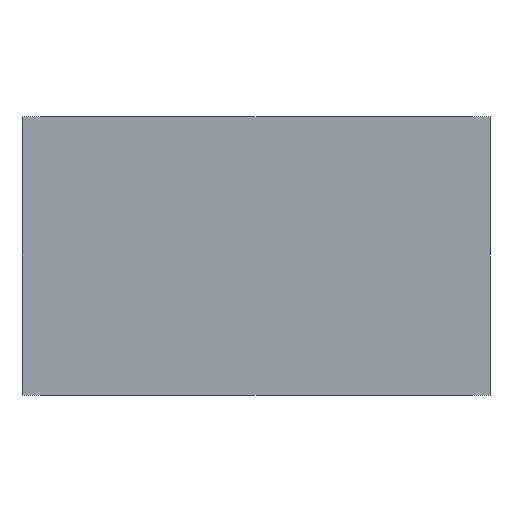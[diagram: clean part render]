
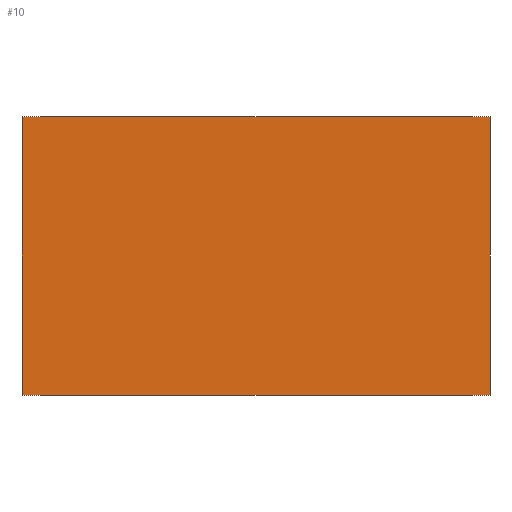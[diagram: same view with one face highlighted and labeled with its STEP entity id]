
A CAD part, front view. The second image highlights one B-rep face of the part: STEP entity #10.
In plain terms, the highlighted planar face has unit normal (0, -1, 0).
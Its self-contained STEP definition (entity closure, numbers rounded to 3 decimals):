
#10 = ADVANCED_FACE ( 'NONE', ( #495 ), #131, .F. ) ;
#30 = VERTEX_POINT ( 'NONE', #164 ) ;
#31 = VERTEX_POINT ( 'NONE', #165 ) ;
#32 = VERTEX_POINT ( 'NONE', #166 ) ;
#47 = CARTESIAN_POINT ( 'NONE',  ( -101., 0., 120. ) ) ;
#82 = VERTEX_POINT ( 'NONE', #223 ) ;
#100 = DIRECTION ( 'NONE',  ( 0., 1., 0. ) ) ;
#122 = DIRECTION ( 'NONE',  ( -1., 0., 0. ) ) ;
#131 = PLANE ( 'NONE',  #409 ) ;
#164 = CARTESIAN_POINT ( 'NONE',  ( -101., 0., 0. ) ) ;
#165 = CARTESIAN_POINT ( 'NONE',  ( 101., 0., 120. ) ) ;
#166 = CARTESIAN_POINT ( 'NONE',  ( -101., 0., 120. ) ) ;
#181 = DIRECTION ( 'NONE',  ( 0., 0., -1. ) ) ;
#182 = CARTESIAN_POINT ( 'NONE',  ( 101., 0., 120. ) ) ;
#223 = CARTESIAN_POINT ( 'NONE',  ( 101., 0., 0. ) ) ;
#233 = DIRECTION ( 'NONE',  ( 1., 0., 0. ) ) ;
#234 = CARTESIAN_POINT ( 'NONE',  ( -101., 0., 0. ) ) ;
#256 = DIRECTION ( 'NONE',  ( 0., 0., -1. ) ) ;
#258 = CARTESIAN_POINT ( 'NONE',  ( -101., 0., 120. ) ) ;
#269 = DIRECTION ( 'NONE',  ( 1., 0., 0. ) ) ;
#270 = CARTESIAN_POINT ( 'NONE',  ( -101., 0., 120. ) ) ;
#363 = EDGE_CURVE ( 'NONE', #31, #82, #502, .T. ) ;
#401 = EDGE_CURVE ( 'NONE', #32, #31, #727, .T. ) ;
#409 = AXIS2_PLACEMENT_3D ( 'NONE', #47, #100, #122 ) ;
#415 = EDGE_CURVE ( 'NONE', #32, #30, #665, .T. ) ;
#427 = EDGE_CURVE ( 'NONE', #30, #82, #622, .T. ) ;
#478 = VECTOR ( 'NONE', #181, 1000. ) ;
#495 = FACE_OUTER_BOUND ( 'NONE', #691, .T. ) ;
#502 = LINE ( 'NONE', #182, #478 ) ;
#578 = ORIENTED_EDGE ( 'NONE', *, *, #401, .F. ) ;
#579 = ORIENTED_EDGE ( 'NONE', *, *, #415, .T. ) ;
#621 = VECTOR ( 'NONE', #233, 1000. ) ;
#622 = LINE ( 'NONE', #234, #621 ) ;
#651 = VECTOR ( 'NONE', #269, 1000. ) ;
#664 = VECTOR ( 'NONE', #256, 1000. ) ;
#665 = LINE ( 'NONE', #258, #664 ) ;
#691 = EDGE_LOOP ( 'NONE', ( #707, #733, #578, #579 ) ) ;
#707 = ORIENTED_EDGE ( 'NONE', *, *, #427, .T. ) ;
#727 = LINE ( 'NONE', #270, #651 ) ;
#733 = ORIENTED_EDGE ( 'NONE', *, *, #363, .F. ) ;
